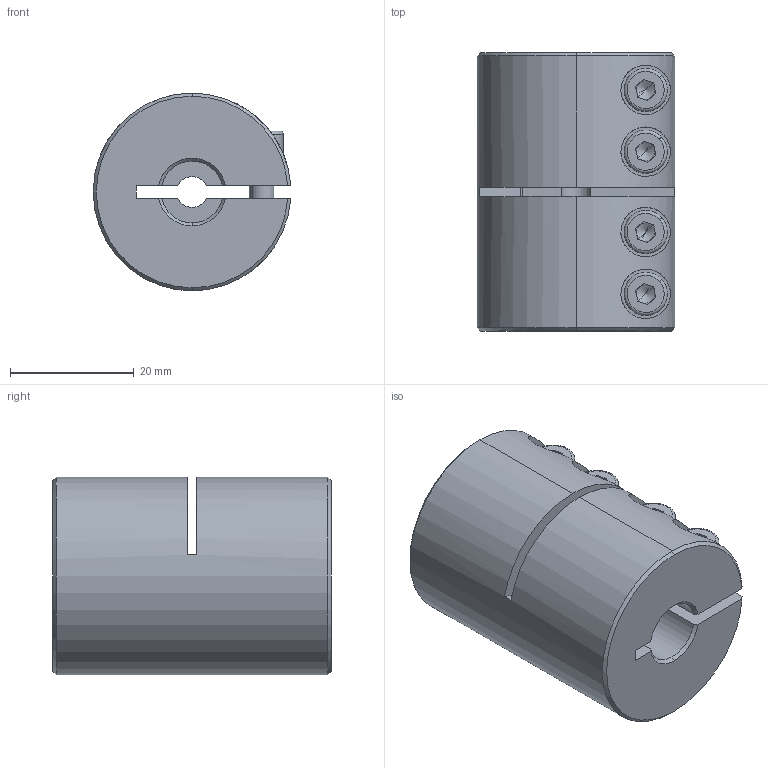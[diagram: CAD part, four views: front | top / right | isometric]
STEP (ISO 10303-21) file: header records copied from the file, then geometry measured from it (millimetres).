
FILE_DESCRIPTION (( 'STEP AP214' ), '1' );
FILE_NAME ('LL-B-D32L45-5-10½¨Ä£.STEP', '2022-07-21T06:22:48', ( '' ), ( '' ), 'SwSTEP 2.0', 'SolidWorks 2022', '' );
FILE_SCHEMA (( 'AUTOMOTIVE_DESIGN' ));
Length unit declared in the file: millimetre
Products named in the file (1): LL-B-D32L45-5-10膘耀
Bounding box: 31.97 x 45 x 32 mm (x, y, z)
Volume: 31251.9 mm3; surface area: 10769.4 mm2
Topology: 1 solids, 1 shells, 193 faces, 492 edges, 309 vertices
Faces by surface type: plane 88, cylinder 77, cone 20, torus 8
Entity records: 6357 total; most frequent: CARTESIAN_POINT 1583, DIRECTION 1037, ORIENTED_EDGE 968, EDGE_CURVE 484, AXIS2_PLACEMENT_3D 403, VERTEX_POINT 309, VECTOR 231, LINE 231
